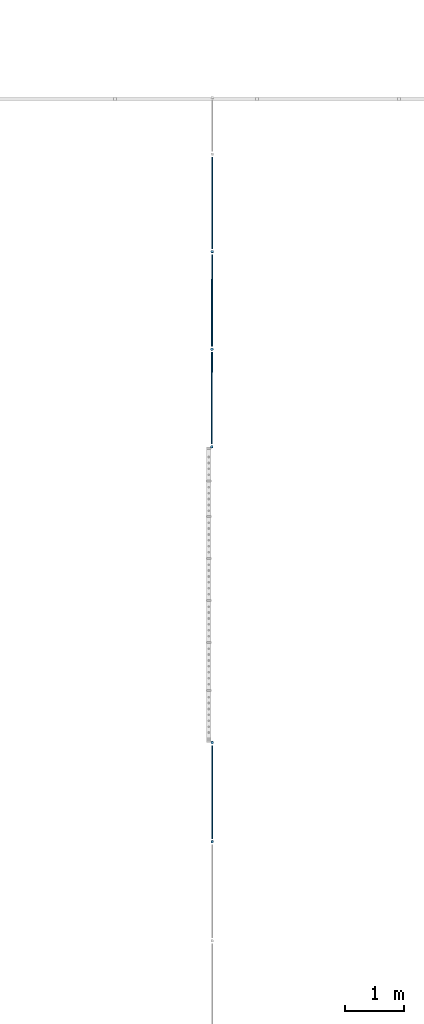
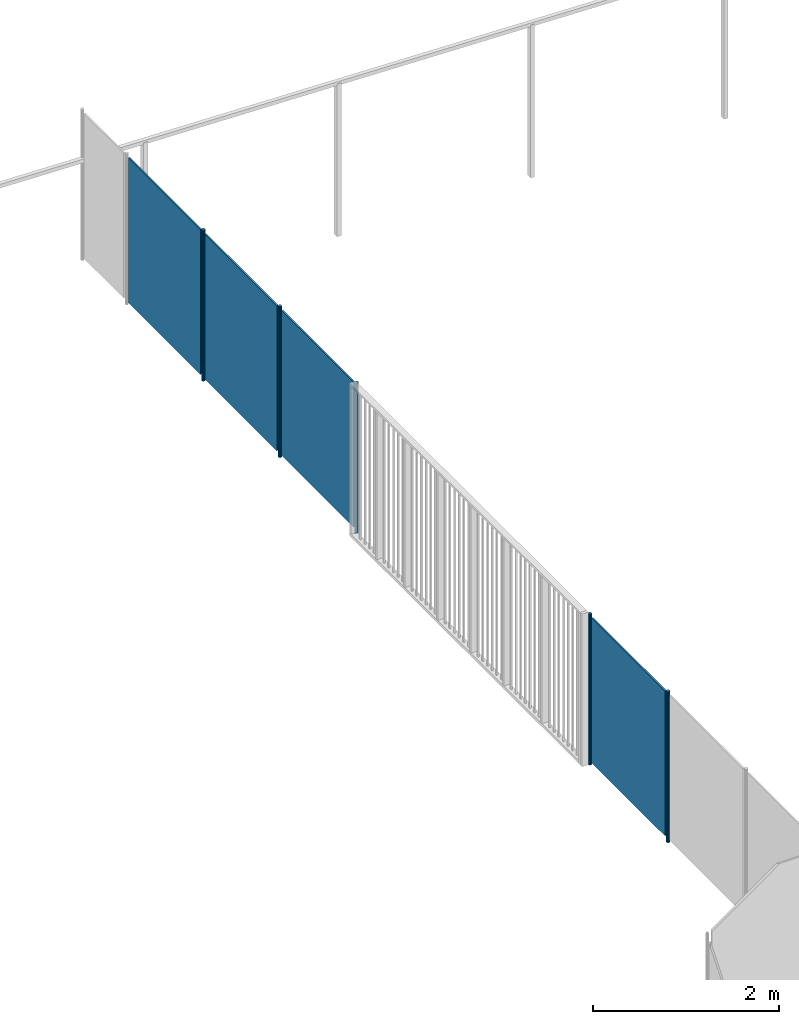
# One storey, part 65 of 91: 9 building element parts, 2 elements without a shape of their own.
"""IFC2X3 building model written with IfcOpenShell, lengths in metres."""

from ifc_helpers import new_model, entity, si_unit, converted_unit, derived_unit, money_unit, direction, frame, origin_with_axes, place, context, subcontext, project, spatial, faceted_brep, material, type_object, element, aggregate, save


model = new_model("IFC2X3")

# Units and contexts
model_context = context("Model", 3, precision=1e-05, world=origin_with_axes(), true_north=direction((0.0, 1.0)))
body_context = subcontext(model_context, "Body", "Model", "MODEL_VIEW")
ifc_project = project(units=[si_unit("LENGTHUNIT", "METRE"), si_unit("AREAUNIT", "SQUARE_METRE"), si_unit("VOLUMEUNIT", "CUBIC_METRE"), converted_unit("PLANEANGLEUNIT", "DEGREE", entity("IfcPlaneAngleMeasure", 0.0174532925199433), si_unit("PLANEANGLEUNIT", "RADIAN"), dimensions=[0, 0, 0, 0, 0, 0, 0]), money_unit("EUR"), converted_unit("TIMEUNIT", "Year", entity("IfcTimeMeasure", 31557600.0), si_unit("TIMEUNIT", "SECOND"), dimensions=[0, 0, 1, 0, 0, 0, 0]), si_unit("MASSUNIT", "GRAM", prefix="KILO"), si_unit("THERMODYNAMICTEMPERATUREUNIT", "DEGREE_CELSIUS"), si_unit("LUMINOUSINTENSITYUNIT", "LUMEN"), si_unit("ENERGYUNIT", "JOULE", prefix="MEGA"), derived_unit("THERMALCONDUCTANCEUNIT", [(si_unit("POWERUNIT", "WATT"), 1), (si_unit("LENGTHUNIT", "METRE"), -1), (si_unit("THERMODYNAMICTEMPERATUREUNIT", "KELVIN"), -1)]), derived_unit("SPECIFICHEATCAPACITYUNIT", [(si_unit("ENERGYUNIT", "JOULE"), 1), (si_unit("MASSUNIT", "GRAM", prefix="KILO"), -1), (si_unit("THERMODYNAMICTEMPERATUREUNIT", "KELVIN"), -1)]), derived_unit("MASSDENSITYUNIT", [(si_unit("MASSUNIT", "GRAM", prefix="KILO"), 1), (si_unit("VOLUMEUNIT", "CUBIC_METRE"), -1)])], contexts=[model_context])

# Site, building, storey
site_placement = place(None, origin_with_axes())
site = spatial("IfcSite", under=ifc_project, at=site_placement, Name="Site", CompositionType="ELEMENT")
building_placement = place(site_placement, origin_with_axes())
building = spatial("IfcBuilding", under=site, at=building_placement, Name="Bâtiment", CompositionType="ELEMENT")
storey_placement = place(building_placement, origin_with_axes())
storey = spatial("IfcBuildingStorey", under=building, at=storey_placement, Name="RDC", CompositionType="ELEMENT", Elevation=0.0)

# Proxy, building element parts
building_element_proxy_type = type_object("IfcBuildingElementProxyType", Name="Type de garde-corps", PredefinedType="NOTDEFINED")
proxy_1_placement = place(storey_placement, frame((48.97569491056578, 1.114200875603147, 0.0), z_axis=(0.0, 0.0, 1.0), x_axis=(1.0, 0.0, 0.0)))
proxy_1 = element("IfcBuildingElementProxy", 1, at=proxy_1_placement, inside=storey, type_object=building_element_proxy_type, Name="RAMPE-003")
ifc_material_1 = material(Name="Métal - Zinc")
building_element_part_1_placement = place(proxy_1_placement, origin_with_axes())
building_element_part_1 = element("IfcBuildingElementPart", 2, at=building_element_part_1_placement, material=ifc_material_1, Name="Métal - Zinc", context=body_context, shape_type="Brep", body=[
    faceted_brep([(0.04996087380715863, -0.02009753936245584, 0.0), (0.05343442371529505, -0.01980047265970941, 0.0), (0.05343442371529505, -0.01980047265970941, 1.98), (0.04996087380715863, -0.02009753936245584, 1.98), (0.0464885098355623, -0.01978691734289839, 0.0), (0.04312283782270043, -0.01887804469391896, 0.0), (0.03996612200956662, -0.01739853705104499, 0.0), (0.03711427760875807, -0.01539334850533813, 0.0), (0.03465395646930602, -0.01292340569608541, 0.0), (0.03265991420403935, -0.01006375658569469, 0.0), (0.03119273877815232, -0.006901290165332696, 0.0), (0.0302970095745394, -0.00353209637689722, 0.0), (0.02999994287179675, -5.854646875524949e-05, 0.0), (0.03031056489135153, 0.003413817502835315, 0.0), (0.03121943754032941, 0.006779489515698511, 0.0), (0.03269894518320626, 0.009936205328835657, 0.0), (0.03470413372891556, 0.01278804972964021, 0.0), (0.03717407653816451, 0.01524837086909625, 0.0), (0.04003372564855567, 0.01724241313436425, 0.0), (0.043196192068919, 0.01870958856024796, 0.0), (0.04656538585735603, 0.01960531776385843, 0.0), (0.05003893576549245, 0.01990238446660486, 0.0), (0.05351129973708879, 0.01959176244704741, 0.0), (0.05687697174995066, 0.01868288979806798, 0.0), (0.06003368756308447, 0.01720338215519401, 0.0), (0.06288553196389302, 0.01519819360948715, 0.0), (0.06534585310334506, 0.01272825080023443, 0.0), (0.06733989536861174, 0.009868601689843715, 0.0), (0.06880707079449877, 0.006706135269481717, 0.0), (0.06970279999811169, 0.003336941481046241, 0.0), (0.06999986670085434, -0.0001366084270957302, 0.0), (0.06968924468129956, -0.003608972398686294, 0.0), (0.06878037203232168, -0.006974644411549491, 0.0), (0.06730086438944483, -0.01013136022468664, 0.0), (0.06529567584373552, -0.01298320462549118, 0.0), (0.06282573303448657, -0.01544352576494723, 0.0), (0.05996608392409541, -0.01743756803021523, 0.0), (0.05680361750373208, -0.01890474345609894, 0.0), (0.05680361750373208, -0.01890474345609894, 1.98), (0.05996608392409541, -0.01743756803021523, 1.98), (0.06282573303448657, -0.01544352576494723, 1.98), (0.06529567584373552, -0.01298320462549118, 1.98), (0.06730086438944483, -0.01013136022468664, 1.98), (0.06878037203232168, -0.006974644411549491, 1.98), (0.06968924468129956, -0.003608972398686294, 1.98), (0.06999986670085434, -0.0001366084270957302, 1.98), (0.06970279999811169, 0.003336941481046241, 1.98), (0.06880707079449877, 0.006706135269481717, 1.98), (0.06733989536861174, 0.009868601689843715, 1.98), (0.06534585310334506, 0.01272825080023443, 1.98), (0.06288553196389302, 0.01519819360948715, 1.98), (0.06003368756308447, 0.01720338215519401, 1.98), (0.05687697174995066, 0.01868288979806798, 1.98), (0.05351129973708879, 0.01959176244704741, 1.98), (0.05003893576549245, 0.01990238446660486, 1.98), (0.04656538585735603, 0.01960531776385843, 1.98), (0.043196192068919, 0.01870958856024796, 1.98), (0.04003372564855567, 0.01724241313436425, 1.98), (0.03717407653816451, 0.01524837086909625, 1.98), (0.03470413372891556, 0.01278804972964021, 1.98), (0.03269894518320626, 0.009936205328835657, 1.98), (0.03121943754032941, 0.006779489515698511, 1.98), (0.03031056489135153, 0.003413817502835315, 1.98), (0.02999994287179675, -5.854646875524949e-05, 1.98), (0.0302970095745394, -0.00353209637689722, 1.98), (0.03119273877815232, -0.006901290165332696, 1.98), (0.03265991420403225, -0.01006375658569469, 1.98), (0.03465395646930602, -0.01292340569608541, 1.98), (0.03711427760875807, -0.01539334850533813, 1.98), (0.03996612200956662, -0.01739853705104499, 1.98), (0.04312283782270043, -0.01887804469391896, 1.98), (0.0464885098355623, -0.01978691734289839, 1.98)], [[[0, 1, 2, 3]], [[0, 4, 5, 6, 7, 8, 9, 10, 11, 12, 13, 14, 15, 16, 17, 18, 19, 20, 21, 22, 23, 24, 25, 26, 27, 28, 29, 30, 31, 32, 33, 34, 35, 36, 37, 1]], [[1, 37, 38, 2]], [[3, 2, 38, 39, 40, 41, 42, 43, 44, 45, 46, 47, 48, 49, 50, 51, 52, 53, 54, 55, 56, 57, 58, 59, 60, 61, 62, 63, 64, 65, 66, 67, 68, 69, 70, 71]], [[4, 0, 3, 71]], [[5, 4, 71, 70]], [[6, 5, 70, 69]], [[7, 6, 69, 68]], [[8, 7, 68, 67]], [[9, 8, 67, 66]], [[10, 9, 66, 65]], [[11, 10, 65, 64]], [[12, 11, 64, 63]], [[13, 12, 63, 62]], [[14, 13, 62, 61]], [[15, 14, 61, 60]], [[16, 15, 60, 59]], [[17, 16, 59, 58]], [[18, 17, 58, 57]], [[19, 18, 57, 56]], [[20, 19, 56, 55]], [[21, 20, 55, 54]], [[22, 21, 54, 53]], [[23, 22, 53, 52]], [[24, 23, 52, 51]], [[25, 24, 51, 50]], [[26, 25, 50, 49]], [[27, 26, 49, 48]], [[28, 27, 48, 47]], [[29, 28, 47, 46]], [[30, 29, 46, 45]], [[31, 30, 45, 44]], [[32, 31, 44, 43]], [[33, 32, 43, 42]], [[34, 33, 42, 41]], [[35, 34, 41, 40]], [[36, 35, 40, 39]], [[37, 36, 39, 38]]]),
])
ifc_material_2 = material(Name="*MAILLE jacob")
building_element_part_2_placement = place(proxy_1_placement, origin_with_axes())
building_element_part_2 = element("IfcBuildingElementPart", 3, at=building_element_part_2_placement, material=ifc_material_2, Name="*MAILLE jacob", context=body_context, shape_type="Brep", body=[
    faceted_brep([(0.04312233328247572, 1.599883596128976, 0.05), (0.04009750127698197, 0.04992184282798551, 0.05), (0.04009750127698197, 0.04992184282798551, 1.95), (0.04312233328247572, 1.599883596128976, 1.95), (0.06009746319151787, 0.04988281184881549, 0.05), (0.06312229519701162, 1.599844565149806, 0.05), (0.06009746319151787, 0.04988281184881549, 1.95), (0.06312229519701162, 1.599844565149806, 1.95)], [[[0, 1, 2, 3]], [[4, 1, 0, 5]], [[6, 2, 1, 4]], [[3, 2, 6, 7]], [[0, 3, 7, 5]], [[6, 4, 5, 7]]]),
])
ifc_material_3 = material(Name="Métal - Aluminium")
building_element_part_3_placement = place(proxy_1_placement, origin_with_axes())
building_element_part_3 = element("IfcBuildingElementPart", 4, at=building_element_part_3_placement, material=ifc_material_3, Name="Métal - Aluminium", context=body_context, shape_type="Brep", body=[
    faceted_brep([(0.05318086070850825, 1.629864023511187, 0.0), (0.05665441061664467, 1.630161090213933, 0.0), (0.05665441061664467, 1.630161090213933, 1.98), (0.05318086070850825, 1.629864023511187, 1.98), (0.04970849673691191, 1.630174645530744, 0.0), (0.04634282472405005, 1.631083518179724, 0.0), (0.04318610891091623, 1.632563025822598, 0.0), (0.04033426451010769, 1.634568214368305, 0.0), (0.03787394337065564, 1.637038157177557, 0.0), (0.03587990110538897, 1.639897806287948, 0.0), (0.03441272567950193, 1.64306027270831, 0.0), (0.03351699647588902, 1.646429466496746, 0.0), (0.03321992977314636, 1.649903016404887, 0.0), (0.03353055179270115, 1.653375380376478, 0.0), (0.03443942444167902, 1.656741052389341, 0.0), (0.03591893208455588, 1.659897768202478, 0.0), (0.03792412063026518, 1.662749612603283, 0.0), (0.04039406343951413, 1.665209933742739, 0.0), (0.04325371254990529, 1.667203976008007, 0.0), (0.04641617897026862, 1.668671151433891, 0.0), (0.04978537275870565, 1.669566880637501, 0.0), (0.05325892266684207, 1.669863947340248, 0.0), (0.05673128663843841, 1.66955332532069, 0.0), (0.06009695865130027, 1.668644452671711, 0.0), (0.06325367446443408, 1.667164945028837, 0.0), (0.06610551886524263, 1.66515975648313, 0.0), (0.06856584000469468, 1.662689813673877, 0.0), (0.07055988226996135, 1.659830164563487, 0.0), (0.07202705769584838, 1.656667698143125, 0.0), (0.0729227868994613, 1.653298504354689, 0.0), (0.07321985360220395, 1.649824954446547, 0.0), (0.07290923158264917, 1.646352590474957, 0.0), (0.0720003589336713, 1.642986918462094, 0.0), (0.07052085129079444, 1.639830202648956, 0.0), (0.06851566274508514, 1.636978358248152, 0.0), (0.06604571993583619, 1.634518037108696, 0.0), (0.06318607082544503, 1.632523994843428, 0.0), (0.0600236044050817, 1.631056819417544, 0.0), (0.0600236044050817, 1.631056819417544, 1.98), (0.06318607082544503, 1.632523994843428, 1.98), (0.06604571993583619, 1.634518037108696, 1.98), (0.06851566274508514, 1.636978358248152, 1.98), (0.07052085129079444, 1.639830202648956, 1.98), (0.0720003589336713, 1.642986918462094, 1.98), (0.07290923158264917, 1.646352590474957, 1.98), (0.07321985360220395, 1.649824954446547, 1.98), (0.0729227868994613, 1.653298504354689, 1.98), (0.07202705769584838, 1.656667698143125, 1.98), (0.07055988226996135, 1.659830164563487, 1.98), (0.06856584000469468, 1.662689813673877, 1.98), (0.06610551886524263, 1.66515975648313, 1.98), (0.06325367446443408, 1.667164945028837, 1.98), (0.06009695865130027, 1.668644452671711, 1.98), (0.05673128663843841, 1.66955332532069, 1.98), (0.05325892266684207, 1.669863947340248, 1.98), (0.04978537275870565, 1.669566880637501, 1.98), (0.04641617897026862, 1.668671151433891, 1.98), (0.04325371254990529, 1.667203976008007, 1.98), (0.04039406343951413, 1.665209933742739, 1.98), (0.03792412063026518, 1.662749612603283, 1.98), (0.03591893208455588, 1.659897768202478, 1.98), (0.03443942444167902, 1.656741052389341, 1.98), (0.03353055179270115, 1.653375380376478, 1.98), (0.03321992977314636, 1.649903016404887, 1.98), (0.03351699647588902, 1.646429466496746, 1.98), (0.03441272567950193, 1.64306027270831, 1.98), (0.03587990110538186, 1.639897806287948, 1.98), (0.03787394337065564, 1.637038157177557, 1.98), (0.04033426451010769, 1.634568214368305, 1.98), (0.04318610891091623, 1.632563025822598, 1.98), (0.04634282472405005, 1.631083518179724, 1.98), (0.04970849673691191, 1.630174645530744, 1.98)], [[[0, 1, 2, 3]], [[0, 4, 5, 6, 7, 8, 9, 10, 11, 12, 13, 14, 15, 16, 17, 18, 19, 20, 21, 22, 23, 24, 25, 26, 27, 28, 29, 30, 31, 32, 33, 34, 35, 36, 37, 1]], [[1, 37, 38, 2]], [[3, 2, 38, 39, 40, 41, 42, 43, 44, 45, 46, 47, 48, 49, 50, 51, 52, 53, 54, 55, 56, 57, 58, 59, 60, 61, 62, 63, 64, 65, 66, 67, 68, 69, 70, 71]], [[4, 0, 3, 71]], [[5, 4, 71, 70]], [[6, 5, 70, 69]], [[7, 6, 69, 68]], [[8, 7, 68, 67]], [[9, 8, 67, 66]], [[10, 9, 66, 65]], [[11, 10, 65, 64]], [[12, 11, 64, 63]], [[13, 12, 63, 62]], [[14, 13, 62, 61]], [[15, 14, 61, 60]], [[16, 15, 60, 59]], [[17, 16, 59, 58]], [[18, 17, 58, 57]], [[19, 18, 57, 56]], [[20, 19, 56, 55]], [[21, 20, 55, 54]], [[22, 21, 54, 53]], [[23, 22, 53, 52]], [[24, 23, 52, 51]], [[25, 24, 51, 50]], [[26, 25, 50, 49]], [[27, 26, 49, 48]], [[28, 27, 48, 47]], [[29, 28, 47, 46]], [[30, 29, 46, 45]], [[31, 30, 45, 44]], [[32, 31, 44, 43]], [[33, 32, 43, 42]], [[34, 33, 42, 41]], [[35, 34, 41, 40]], [[36, 35, 40, 39]], [[37, 36, 39, 38]]]),
])
building_element_part_4_placement = place(proxy_1_placement, origin_with_axes())
building_element_part_4 = element("IfcBuildingElementPart", 5, at=building_element_part_4_placement, material=ifc_material_2, Name="*MAILLE jacob", context=body_context, shape_type="Brep", body=[
    faceted_brep([(0.04634232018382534, 3.249845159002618, 0.05), (0.04331748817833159, 1.699883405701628, 0.05), (0.04331748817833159, 1.699883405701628, 1.95), (0.04634232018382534, 3.249845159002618, 1.95), (0.06331745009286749, 1.699844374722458, 0.05), (0.06634228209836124, 3.249806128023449, 0.05), (0.06331745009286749, 1.699844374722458, 1.95), (0.06634228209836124, 3.249806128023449, 1.95)], [[[0, 1, 2, 3]], [[4, 1, 0, 5]], [[6, 2, 1, 4]], [[3, 2, 6, 7]], [[0, 3, 7, 5]], [[6, 4, 5, 7]]]),
])
building_element_part_5_placement = place(proxy_1_placement, origin_with_axes())
building_element_part_5 = element("IfcBuildingElementPart", 6, at=building_element_part_5_placement, material=ifc_material_3, Name="Métal - Aluminium", context=body_context, shape_type="Brep", body=[
    faceted_brep([(0.05640084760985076, 3.279825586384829, 0.0), (0.05987439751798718, 3.280122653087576, 0.0), (0.05987439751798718, 3.280122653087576, 1.98), (0.05640084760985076, 3.279825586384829, 1.98), (0.05292848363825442, 3.280136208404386, 0.0), (0.04956281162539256, 3.281045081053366, 0.0), (0.04640609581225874, 3.28252458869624, 0.0), (0.0435542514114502, 3.284529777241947, 0.0), (0.04109393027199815, 3.286999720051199, 0.0), (0.03909988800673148, 3.28985936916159, 0.0), (0.03763271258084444, 3.293021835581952, 0.0), (0.03673698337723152, 3.296391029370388, 0.0), (0.03643991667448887, 3.29986457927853, 0.0), (0.03675053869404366, 3.30333694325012, 0.0), (0.03765941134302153, 3.306702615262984, 0.0), (0.03913891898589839, 3.309859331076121, 0.0), (0.04114410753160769, 3.312711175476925, 0.0), (0.04361405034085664, 3.315171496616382, 0.0), (0.0464736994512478, 3.317165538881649, 0.0), (0.04963616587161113, 3.318632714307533, 0.0), (0.05300535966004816, 3.319528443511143, 0.0), (0.05647890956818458, 3.31982551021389, 0.0), (0.05995127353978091, 3.319514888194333, 0.0), (0.06331694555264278, 3.318606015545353, 0.0), (0.06647366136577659, 3.317126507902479, 0.0), (0.06932550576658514, 3.315121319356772, 0.0), (0.07178582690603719, 3.31265137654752, 0.0), (0.07377986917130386, 3.309791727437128, 0.0), (0.07524704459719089, 3.306629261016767, 0.0), (0.07614277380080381, 3.303260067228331, 0.0), (0.07643984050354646, 3.299786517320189, 0.0), (0.07612921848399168, 3.296314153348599, 0.0), (0.0752203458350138, 3.292948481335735, 0.0), (0.07374083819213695, 3.289791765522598, 0.0), (0.07173564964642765, 3.286939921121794, 0.0), (0.0692657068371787, 3.284479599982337, 0.0), (0.06640605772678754, 3.28248555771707, 0.0), (0.06324359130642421, 3.281018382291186, 0.0), (0.06324359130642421, 3.281018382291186, 1.98), (0.06640605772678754, 3.28248555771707, 1.98), (0.0692657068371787, 3.284479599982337, 1.98), (0.07173564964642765, 3.286939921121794, 1.98), (0.07374083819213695, 3.289791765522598, 1.98), (0.0752203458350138, 3.292948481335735, 1.98), (0.07612921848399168, 3.296314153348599, 1.98), (0.07643984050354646, 3.299786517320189, 1.98), (0.07614277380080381, 3.303260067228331, 1.98), (0.07524704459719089, 3.306629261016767, 1.98), (0.07377986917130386, 3.309791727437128, 1.98), (0.07178582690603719, 3.31265137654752, 1.98), (0.06932550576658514, 3.315121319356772, 1.98), (0.06647366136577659, 3.317126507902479, 1.98), (0.06331694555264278, 3.318606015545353, 1.98), (0.05995127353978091, 3.319514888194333, 1.98), (0.05647890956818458, 3.31982551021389, 1.98), (0.05300535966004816, 3.319528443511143, 1.98), (0.04963616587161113, 3.318632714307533, 1.98), (0.0464736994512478, 3.317165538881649, 1.98), (0.04361405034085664, 3.315171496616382, 1.98), (0.04114410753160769, 3.312711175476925, 1.98), (0.03913891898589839, 3.309859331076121, 1.98), (0.03765941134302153, 3.306702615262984, 1.98), (0.03675053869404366, 3.30333694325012, 1.98), (0.03643991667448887, 3.29986457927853, 1.98), (0.03673698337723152, 3.296391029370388, 1.98), (0.03763271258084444, 3.293021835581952, 1.98), (0.03909988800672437, 3.28985936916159, 1.98), (0.04109393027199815, 3.286999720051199, 1.98), (0.0435542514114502, 3.284529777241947, 1.98), (0.04640609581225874, 3.28252458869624, 1.98), (0.04956281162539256, 3.281045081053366, 1.98), (0.05292848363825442, 3.280136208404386, 1.98)], [[[0, 1, 2, 3]], [[0, 4, 5, 6, 7, 8, 9, 10, 11, 12, 13, 14, 15, 16, 17, 18, 19, 20, 21, 22, 23, 24, 25, 26, 27, 28, 29, 30, 31, 32, 33, 34, 35, 36, 37, 1]], [[1, 37, 38, 2]], [[3, 2, 38, 39, 40, 41, 42, 43, 44, 45, 46, 47, 48, 49, 50, 51, 52, 53, 54, 55, 56, 57, 58, 59, 60, 61, 62, 63, 64, 65, 66, 67, 68, 69, 70, 71]], [[4, 0, 3, 71]], [[5, 4, 71, 70]], [[6, 5, 70, 69]], [[7, 6, 69, 68]], [[8, 7, 68, 67]], [[9, 8, 67, 66]], [[10, 9, 66, 65]], [[11, 10, 65, 64]], [[12, 11, 64, 63]], [[13, 12, 63, 62]], [[14, 13, 62, 61]], [[15, 14, 61, 60]], [[16, 15, 60, 59]], [[17, 16, 59, 58]], [[18, 17, 58, 57]], [[19, 18, 57, 56]], [[20, 19, 56, 55]], [[21, 20, 55, 54]], [[22, 21, 54, 53]], [[23, 22, 53, 52]], [[24, 23, 52, 51]], [[25, 24, 51, 50]], [[26, 25, 50, 49]], [[27, 26, 49, 48]], [[28, 27, 48, 47]], [[29, 28, 47, 46]], [[30, 29, 46, 45]], [[31, 30, 45, 44]], [[32, 31, 44, 43]], [[33, 32, 43, 42]], [[34, 33, 42, 41]], [[35, 34, 41, 40]], [[36, 35, 40, 39]], [[37, 36, 39, 38]]]),
])
building_element_part_6_placement = place(proxy_1_placement, origin_with_axes())
building_element_part_6 = element("IfcBuildingElementPart", 7, at=building_element_part_6_placement, material=ifc_material_2, Name="*MAILLE jacob", context=body_context, shape_type="Brep", body=[
    faceted_brep([(0.04956230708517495, 4.899806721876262, 0.05), (0.0465374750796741, 3.349844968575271, 0.05), (0.0465374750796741, 3.349844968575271, 1.95), (0.04956230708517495, 4.899806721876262, 1.95), (0.06653743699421, 3.349805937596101, 0.05), (0.06956226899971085, 4.899767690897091, 0.05), (0.06653743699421, 3.349805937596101, 1.95), (0.06956226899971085, 4.899767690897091, 1.95)], [[[0, 1, 2, 3]], [[4, 1, 0, 5]], [[6, 2, 1, 4]], [[3, 2, 6, 7]], [[0, 3, 7, 5]], [[6, 4, 5, 7]]]),
])
aggregate(proxy_1, [building_element_part_1, building_element_part_2, building_element_part_3, building_element_part_4, building_element_part_5, building_element_part_6])

proxy_2_placement = place(storey_placement, frame((49.08370675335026, -3.835963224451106, 0.0), z_axis=(0.0, 0.0, 1.0), x_axis=(1.0, 0.0, 0.0)))
proxy_2 = element("IfcBuildingElementProxy", 8, at=proxy_2_placement, inside=storey, type_object=building_element_proxy_type, Name="RAMPE-003")
building_element_part_7_placement = place(proxy_2_placement, origin_with_axes())
building_element_part_7 = element("IfcBuildingElementPart", 9, at=building_element_part_7_placement, material=ifc_material_1, Name="Métal - Zinc", context=body_context, shape_type="Brep", body=[
    faceted_brep([(-0.04999999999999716, -0.03000000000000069, 0.0), (-0.05347296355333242, -0.03030384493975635, 0.0), (-0.05347296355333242, -0.03030384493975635, 1.98), (-0.04999999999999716, -0.03000000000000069, 1.98), (-0.0465270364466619, -0.03030384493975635, 0.0), (-0.0431595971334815, -0.03120614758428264, 0.0), (-0.03999999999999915, -0.03267949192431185, 0.0), (-0.03714424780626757, -0.03467911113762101, 0.0), (-0.03467911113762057, -0.03714424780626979, 0.0), (-0.03267949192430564, -0.04000000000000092, 0.0), (-0.0312061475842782, -0.04315959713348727, 0.0), (-0.03030384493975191, -0.0465270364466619, 0.0), (-0.02999999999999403, -0.05000000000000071, 0.0), (-0.03030384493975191, -0.05347296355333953, 0.0), (-0.0312061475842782, -0.05684040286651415, 0.0), (-0.03267949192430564, -0.0600000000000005, 0.0), (-0.03467911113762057, -0.06285575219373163, 0.0), (-0.03714424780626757, -0.06532088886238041, 0.0), (-0.03999999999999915, -0.06732050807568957, 0.0), (-0.0431595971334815, -0.06879385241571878, 0.0), (-0.0465270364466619, -0.06969615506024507, 0.0), (-0.04999999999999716, -0.07000000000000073, 0.0), (-0.05347296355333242, -0.06969615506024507, 0.0), (-0.05684040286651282, -0.06879385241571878, 0.0), (-0.05999999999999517, -0.06732050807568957, 0.0), (-0.06285575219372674, -0.06532088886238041, 0.0), (-0.06532088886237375, -0.06285575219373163, 0.0), (-0.06732050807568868, -0.0600000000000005, 0.0), (-0.06879385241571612, -0.05684040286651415, 0.0), (-0.0696961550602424, -0.05347296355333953, 0.0), (-0.07000000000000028, -0.05000000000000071, 0.0), (-0.0696961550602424, -0.0465270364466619, 0.0), (-0.06879385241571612, -0.04315959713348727, 0.0), (-0.06732050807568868, -0.04000000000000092, 0.0), (-0.06532088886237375, -0.03714424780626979, 0.0), (-0.06285575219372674, -0.03467911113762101, 0.0), (-0.05999999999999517, -0.03267949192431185, 0.0), (-0.05684040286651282, -0.03120614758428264, 0.0), (-0.05684040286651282, -0.03120614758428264, 1.98), (-0.05999999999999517, -0.03267949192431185, 1.98), (-0.06285575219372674, -0.03467911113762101, 1.98), (-0.06532088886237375, -0.03714424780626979, 1.98), (-0.06732050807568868, -0.04000000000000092, 1.98), (-0.06879385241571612, -0.04315959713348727, 1.98), (-0.0696961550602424, -0.0465270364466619, 1.98), (-0.07000000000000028, -0.05000000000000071, 1.98), (-0.0696961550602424, -0.05347296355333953, 1.98), (-0.06879385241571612, -0.05684040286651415, 1.98), (-0.06732050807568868, -0.0600000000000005, 1.98), (-0.06532088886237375, -0.06285575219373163, 1.98), (-0.06285575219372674, -0.06532088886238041, 1.98), (-0.05999999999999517, -0.06732050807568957, 1.98), (-0.05684040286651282, -0.06879385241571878, 1.98), (-0.05347296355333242, -0.06969615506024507, 1.98), (-0.04999999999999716, -0.07000000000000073, 1.98), (-0.0465270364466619, -0.06969615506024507, 1.98), (-0.0431595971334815, -0.06879385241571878, 1.98), (-0.03999999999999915, -0.06732050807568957, 1.98), (-0.03714424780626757, -0.06532088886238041, 1.98), (-0.03467911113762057, -0.06285575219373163, 1.98), (-0.03267949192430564, -0.0600000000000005, 1.98), (-0.0312061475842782, -0.05684040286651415, 1.98), (-0.03030384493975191, -0.05347296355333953, 1.98), (-0.02999999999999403, -0.05000000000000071, 1.98), (-0.03030384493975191, -0.0465270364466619, 1.98), (-0.0312061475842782, -0.04315959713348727, 1.98), (-0.03267949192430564, -0.04000000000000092, 1.98), (-0.03467911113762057, -0.03714424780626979, 1.98), (-0.03714424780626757, -0.03467911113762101, 1.98), (-0.03999999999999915, -0.03267949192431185, 1.98), (-0.0431595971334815, -0.03120614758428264, 1.98), (-0.0465270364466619, -0.03030384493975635, 1.98)], [[[0, 1, 2, 3]], [[0, 4, 5, 6, 7, 8, 9, 10, 11, 12, 13, 14, 15, 16, 17, 18, 19, 20, 21, 22, 23, 24, 25, 26, 27, 28, 29, 30, 31, 32, 33, 34, 35, 36, 37, 1]], [[1, 37, 38, 2]], [[3, 2, 38, 39, 40, 41, 42, 43, 44, 45, 46, 47, 48, 49, 50, 51, 52, 53, 54, 55, 56, 57, 58, 59, 60, 61, 62, 63, 64, 65, 66, 67, 68, 69, 70, 71]], [[4, 0, 3, 71]], [[5, 4, 71, 70]], [[6, 5, 70, 69]], [[7, 6, 69, 68]], [[8, 7, 68, 67]], [[9, 8, 67, 66]], [[10, 9, 66, 65]], [[11, 10, 65, 64]], [[12, 11, 64, 63]], [[13, 12, 63, 62]], [[14, 13, 62, 61]], [[15, 14, 61, 60]], [[16, 15, 60, 59]], [[17, 16, 59, 58]], [[18, 17, 58, 57]], [[19, 18, 57, 56]], [[20, 19, 56, 55]], [[21, 20, 55, 54]], [[22, 21, 54, 53]], [[23, 22, 53, 52]], [[24, 23, 52, 51]], [[25, 24, 51, 50]], [[26, 25, 50, 49]], [[27, 26, 49, 48]], [[28, 27, 48, 47]], [[29, 28, 47, 46]], [[30, 29, 46, 45]], [[31, 30, 45, 44]], [[32, 31, 44, 43]], [[33, 32, 43, 42]], [[34, 33, 42, 41]], [[35, 34, 41, 40]], [[36, 35, 40, 39]], [[37, 36, 39, 38]]]),
])
building_element_part_8_placement = place(proxy_2_placement, origin_with_axes())
building_element_part_8 = element("IfcBuildingElementPart", 10, at=building_element_part_8_placement, material=ifc_material_2, Name="*MAILLE jacob", context=body_context, shape_type="Brep", body=[
    faceted_brep([(-0.03999999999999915, -1.676370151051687, 0.05), (-0.03999999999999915, -0.1000000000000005, 0.05), (-0.03999999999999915, -0.1000000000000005, 1.95), (-0.03999999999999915, -1.676370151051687, 1.95), (-0.05999999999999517, -0.1000000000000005, 0.05), (-0.05999999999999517, -1.676370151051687, 0.05), (-0.05999999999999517, -0.1000000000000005, 1.95), (-0.05999999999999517, -1.676370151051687, 1.95)], [[[0, 1, 2, 3]], [[4, 1, 0, 5]], [[6, 2, 1, 4]], [[3, 2, 6, 7]], [[0, 3, 7, 5]], [[6, 4, 5, 7]]]),
])
building_element_part_9_placement = place(proxy_2_placement, origin_with_axes())
building_element_part_9 = element("IfcBuildingElementPart", 11, at=building_element_part_9_placement, material=ifc_material_3, Name="Métal - Aluminium", context=body_context, shape_type="Brep", body=[
    faceted_brep([(-0.04999999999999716, -1.706370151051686, 0.0), (-0.05347296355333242, -1.706673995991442, 0.0), (-0.05347296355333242, -1.706673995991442, 1.98), (-0.04999999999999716, -1.706370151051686, 1.98), (-0.0465270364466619, -1.706673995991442, 0.0), (-0.0431595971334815, -1.707576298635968, 0.0), (-0.03999999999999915, -1.709049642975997, 0.0), (-0.03714424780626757, -1.711049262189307, 0.0), (-0.03467911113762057, -1.713514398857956, 0.0), (-0.03267949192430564, -1.716370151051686, 0.0), (-0.0312061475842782, -1.719529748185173, 0.0), (-0.03030384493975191, -1.722897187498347, 0.0), (-0.02999999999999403, -1.726370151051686, 0.0), (-0.03030384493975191, -1.729843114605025, 0.0), (-0.0312061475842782, -1.733210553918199, 0.0), (-0.03267949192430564, -1.736370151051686, 0.0), (-0.03467911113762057, -1.739225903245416, 0.0), (-0.03714424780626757, -1.741691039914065, 0.0), (-0.03999999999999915, -1.743690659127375, 0.0), (-0.0431595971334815, -1.745164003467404, 0.0), (-0.0465270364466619, -1.74606630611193, 0.0), (-0.04999999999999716, -1.746370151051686, 0.0), (-0.05347296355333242, -1.74606630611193, 0.0), (-0.05684040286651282, -1.745164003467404, 0.0), (-0.05999999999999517, -1.743690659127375, 0.0), (-0.06285575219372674, -1.741691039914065, 0.0), (-0.06532088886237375, -1.739225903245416, 0.0), (-0.06732050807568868, -1.736370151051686, 0.0), (-0.06879385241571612, -1.733210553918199, 0.0), (-0.0696961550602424, -1.729843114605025, 0.0), (-0.07000000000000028, -1.726370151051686, 0.0), (-0.0696961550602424, -1.722897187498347, 0.0), (-0.06879385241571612, -1.719529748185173, 0.0), (-0.06732050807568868, -1.716370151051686, 0.0), (-0.06532088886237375, -1.713514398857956, 0.0), (-0.06285575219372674, -1.711049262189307, 0.0), (-0.05999999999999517, -1.709049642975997, 0.0), (-0.05684040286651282, -1.707576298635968, 0.0), (-0.05684040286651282, -1.707576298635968, 1.98), (-0.05999999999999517, -1.709049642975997, 1.98), (-0.06285575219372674, -1.711049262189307, 1.98), (-0.06532088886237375, -1.713514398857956, 1.98), (-0.06732050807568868, -1.716370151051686, 1.98), (-0.06879385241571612, -1.719529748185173, 1.98), (-0.0696961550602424, -1.722897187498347, 1.98), (-0.07000000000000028, -1.726370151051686, 1.98), (-0.0696961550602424, -1.729843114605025, 1.98), (-0.06879385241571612, -1.733210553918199, 1.98), (-0.06732050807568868, -1.736370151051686, 1.98), (-0.06532088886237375, -1.739225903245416, 1.98), (-0.06285575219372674, -1.741691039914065, 1.98), (-0.05999999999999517, -1.743690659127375, 1.98), (-0.05684040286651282, -1.745164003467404, 1.98), (-0.05347296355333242, -1.74606630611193, 1.98), (-0.04999999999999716, -1.746370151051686, 1.98), (-0.0465270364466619, -1.74606630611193, 1.98), (-0.0431595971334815, -1.745164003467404, 1.98), (-0.03999999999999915, -1.743690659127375, 1.98), (-0.03714424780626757, -1.741691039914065, 1.98), (-0.03467911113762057, -1.739225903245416, 1.98), (-0.03267949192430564, -1.736370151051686, 1.98), (-0.0312061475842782, -1.733210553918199, 1.98), (-0.03030384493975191, -1.729843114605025, 1.98), (-0.02999999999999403, -1.726370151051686, 1.98), (-0.03030384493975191, -1.722897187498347, 1.98), (-0.0312061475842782, -1.719529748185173, 1.98), (-0.03267949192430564, -1.716370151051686, 1.98), (-0.03467911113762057, -1.713514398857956, 1.98), (-0.03714424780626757, -1.711049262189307, 1.98), (-0.03999999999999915, -1.709049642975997, 1.98), (-0.0431595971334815, -1.707576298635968, 1.98), (-0.0465270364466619, -1.706673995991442, 1.98)], [[[0, 1, 2, 3]], [[0, 4, 5, 6, 7, 8, 9, 10, 11, 12, 13, 14, 15, 16, 17, 18, 19, 20, 21, 22, 23, 24, 25, 26, 27, 28, 29, 30, 31, 32, 33, 34, 35, 36, 37, 1]], [[1, 37, 38, 2]], [[3, 2, 38, 39, 40, 41, 42, 43, 44, 45, 46, 47, 48, 49, 50, 51, 52, 53, 54, 55, 56, 57, 58, 59, 60, 61, 62, 63, 64, 65, 66, 67, 68, 69, 70, 71]], [[4, 0, 3, 71]], [[5, 4, 71, 70]], [[6, 5, 70, 69]], [[7, 6, 69, 68]], [[8, 7, 68, 67]], [[9, 8, 67, 66]], [[10, 9, 66, 65]], [[11, 10, 65, 64]], [[12, 11, 64, 63]], [[13, 12, 63, 62]], [[14, 13, 62, 61]], [[15, 14, 61, 60]], [[16, 15, 60, 59]], [[17, 16, 59, 58]], [[18, 17, 58, 57]], [[19, 18, 57, 56]], [[20, 19, 56, 55]], [[21, 20, 55, 54]], [[22, 21, 54, 53]], [[23, 22, 53, 52]], [[24, 23, 52, 51]], [[25, 24, 51, 50]], [[26, 25, 50, 49]], [[27, 26, 49, 48]], [[28, 27, 48, 47]], [[29, 28, 47, 46]], [[30, 29, 46, 45]], [[31, 30, 45, 44]], [[32, 31, 44, 43]], [[33, 32, 43, 42]], [[34, 33, 42, 41]], [[35, 34, 41, 40]], [[36, 35, 40, 39]], [[37, 36, 39, 38]]]),
])
aggregate(proxy_2, [building_element_part_7, building_element_part_8, building_element_part_9])

save(model, "model.ifc")
